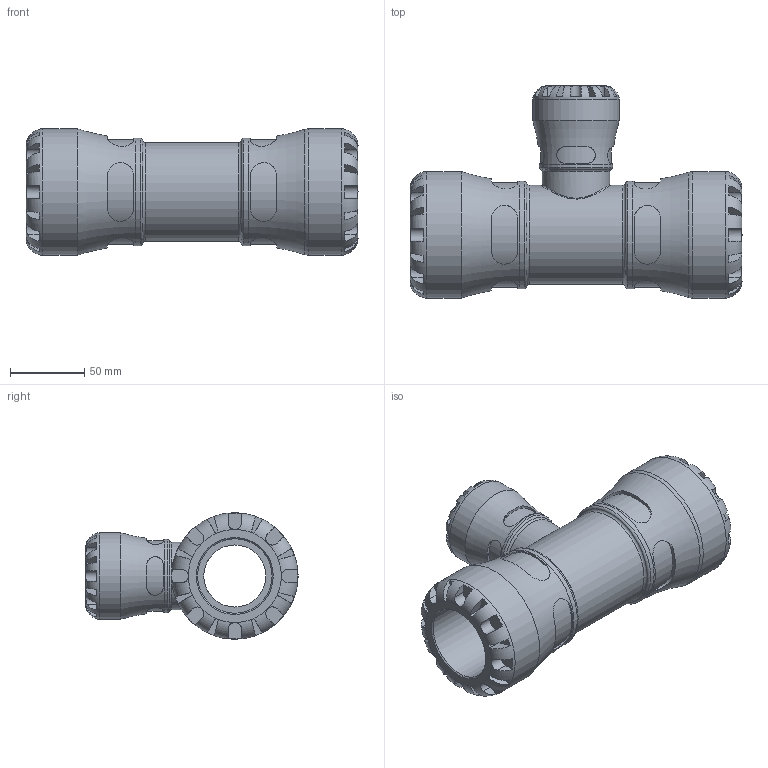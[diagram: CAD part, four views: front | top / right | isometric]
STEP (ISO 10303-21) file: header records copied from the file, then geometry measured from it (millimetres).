
FILE_DESCRIPTION(/* description */ ('PLASSON G-PLASS REDUCING TEE 50X32X50'),/* implementation_level */ '2;1');
FILE_NAME(/* name */ 'C:\Users\Kirill\Dropbox\99-16-3568-Processing\S1\153400\stp\153400050032.stp',/* time_stamp */ '2023-10-21T22:57:06+04:00',/* author */ ('KIM'),/* organization */ (''),/* preprocessor_version */ 'ST-DEVELOPER v17.2',/* originating_system */ 'Autodesk Inventor 2019',/* authorisation */ '');
FILE_SCHEMA (('AUTOMOTIVE_DESIGN { 1 0 10303 214 3 1 1 }'));
Length unit declared in the file: millimetre
Products named in the file (1): 153400050032
Bounding box: 223 x 142.5 x 85 mm (x, y, z)
Volume: 666913.3 mm3; surface area: 120183.9 mm2
Topology: 1 solids, 1 shells, 287 faces, 760 edges, 488 vertices
Faces by surface type: plane 174, cylinder 97, torus 13, cone 2, bspline 1
Full cylindrical faces by diameter (mm): 26.667 x1, 32 x1, 41.667 x1, 45.24 x1, 49.3 x1, 50 x2, 58 x1, 66.3 x1, 72.25 x2, 85 x2
Entity records: 11884 total; most frequent: CARTESIAN_POINT 4617, ORIENTED_EDGE 1522, DIRECTION 1446, EDGE_CURVE 761, AXIS2_PLACEMENT_3D 595, VERTEX_POINT 489, CIRCLE 308, EDGE_LOOP 304
